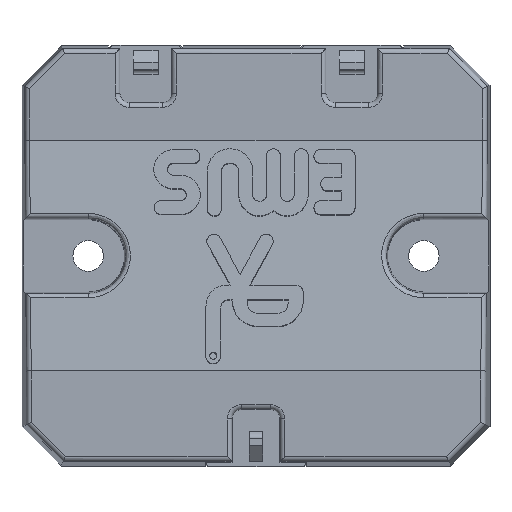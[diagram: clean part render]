
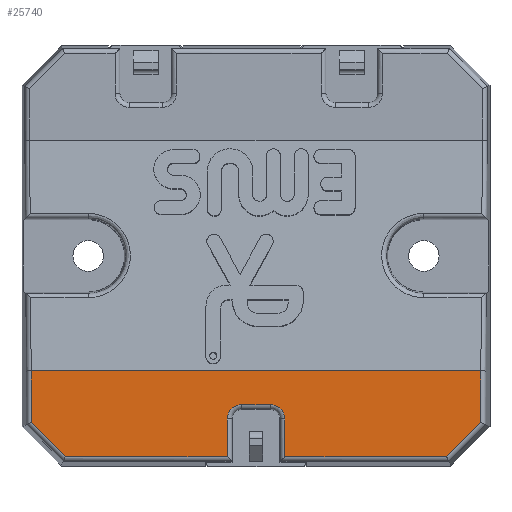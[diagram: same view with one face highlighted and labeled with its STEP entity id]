
A CAD part, top view. The second image highlights one B-rep face of the part: STEP entity #25740.
In plain terms, the highlighted planar face has unit normal (0, 0, 1).
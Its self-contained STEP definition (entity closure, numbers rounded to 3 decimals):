
#674=CIRCLE('',#27300,1.5);
#678=CIRCLE('',#27307,1.5);
#1845=FACE_OUTER_BOUND('',#3252,.T.);
#3252=EDGE_LOOP('',(#21586,#21587,#21588,#21589,#21590,#21591,#21592,#21593,
#21594,#21595,#21596,#21597,#21598,#21599));
#6058=LINE('',#42541,#9258);
#6062=LINE('',#42562,#9262);
#6064=LINE('',#42574,#9264);
#6067=LINE('',#42579,#9267);
#6072=LINE('',#42589,#9272);
#6073=LINE('',#42591,#9273);
#6074=LINE('',#42593,#9274);
#6075=LINE('',#42594,#9275);
#6076=LINE('',#42596,#9276);
#6077=LINE('',#42598,#9277);
#6078=LINE('',#42600,#9278);
#6079=LINE('',#42601,#9279);
#9258=VECTOR('',#32484,10.);
#9262=VECTOR('',#32506,10.);
#9264=VECTOR('',#32520,10.);
#9267=VECTOR('',#32525,10.);
#9272=VECTOR('',#32538,10.);
#9273=VECTOR('',#32539,10.);
#9274=VECTOR('',#32540,10.);
#9275=VECTOR('',#32541,10.);
#9276=VECTOR('',#32542,10.);
#9277=VECTOR('',#32543,10.);
#9278=VECTOR('',#32544,10.);
#9279=VECTOR('',#32545,10.);
#11960=VERTEX_POINT('',#42538);
#11961=VERTEX_POINT('',#42540);
#11967=VERTEX_POINT('',#42554);
#11968=VERTEX_POINT('',#42556);
#11969=VERTEX_POINT('',#42560);
#11972=VERTEX_POINT('',#42568);
#11973=VERTEX_POINT('',#42570);
#11974=VERTEX_POINT('',#42578);
#11975=VERTEX_POINT('',#42588);
#11976=VERTEX_POINT('',#42590);
#11977=VERTEX_POINT('',#42592);
#11978=VERTEX_POINT('',#42595);
#11979=VERTEX_POINT('',#42597);
#11980=VERTEX_POINT('',#42599);
#15302=EDGE_CURVE('',#11961,#11960,#6058,.T.);
#15309=EDGE_CURVE('',#11967,#11968,#674,.T.);
#15312=EDGE_CURVE('',#11969,#11967,#6062,.T.);
#15316=EDGE_CURVE('',#11972,#11973,#678,.T.);
#15318=EDGE_CURVE('',#11968,#11972,#6064,.T.);
#15321=EDGE_CURVE('',#11973,#11974,#6067,.T.);
#15327=EDGE_CURVE('',#11975,#11969,#6072,.T.);
#15328=EDGE_CURVE('',#11976,#11975,#6073,.T.);
#15329=EDGE_CURVE('',#11977,#11976,#6074,.T.);
#15330=EDGE_CURVE('',#11977,#11961,#6075,.T.);
#15331=EDGE_CURVE('',#11960,#11978,#6076,.T.);
#15332=EDGE_CURVE('',#11979,#11978,#6077,.T.);
#15333=EDGE_CURVE('',#11980,#11979,#6078,.T.);
#15334=EDGE_CURVE('',#11974,#11980,#6079,.T.);
#21586=ORIENTED_EDGE('',*,*,#15321,.F.);
#21587=ORIENTED_EDGE('',*,*,#15316,.F.);
#21588=ORIENTED_EDGE('',*,*,#15318,.F.);
#21589=ORIENTED_EDGE('',*,*,#15309,.F.);
#21590=ORIENTED_EDGE('',*,*,#15312,.F.);
#21591=ORIENTED_EDGE('',*,*,#15327,.F.);
#21592=ORIENTED_EDGE('',*,*,#15328,.F.);
#21593=ORIENTED_EDGE('',*,*,#15329,.F.);
#21594=ORIENTED_EDGE('',*,*,#15330,.T.);
#21595=ORIENTED_EDGE('',*,*,#15302,.T.);
#21596=ORIENTED_EDGE('',*,*,#15331,.T.);
#21597=ORIENTED_EDGE('',*,*,#15332,.F.);
#21598=ORIENTED_EDGE('',*,*,#15333,.F.);
#21599=ORIENTED_EDGE('',*,*,#15334,.F.);
#24451=PLANE('',#27314);
#25740=ADVANCED_FACE('',(#1845),#24451,.F.);
#27300=AXIS2_PLACEMENT_3D('',#42557,#32498,#32499);
#27307=AXIS2_PLACEMENT_3D('',#42571,#32514,#32515);
#27314=AXIS2_PLACEMENT_3D('',#42587,#32536,#32537);
#32484=DIRECTION('',(-1.,0.,0.));
#32498=DIRECTION('center_axis',(0.,0.,1.));
#32499=DIRECTION('ref_axis',(0.707,0.707,0.));
#32506=DIRECTION('',(0.,1.,0.));
#32514=DIRECTION('center_axis',(0.,0.,1.));
#32515=DIRECTION('ref_axis',(-0.707,0.707,0.));
#32520=DIRECTION('',(-1.,0.,0.));
#32525=DIRECTION('',(0.,-1.,0.));
#32536=DIRECTION('center_axis',(0.,0.,-1.));
#32537=DIRECTION('ref_axis',(1.,0.,0.));
#32538=DIRECTION('',(-1.,0.,0.));
#32539=DIRECTION('',(-0.707,-0.707,0.));
#32540=DIRECTION('',(0.,-1.,0.));
#32541=DIRECTION('',(-1.,0.,0.));
#32542=DIRECTION('',(-1.,0.,0.));
#32543=DIRECTION('',(0.,1.,0.));
#32544=DIRECTION('',(-0.707,0.707,0.));
#32545=DIRECTION('',(-1.,0.,0.));
#42538=CARTESIAN_POINT('',(-0.955,10.,9.185));
#42540=CARTESIAN_POINT('',(45.955,10.,9.185));
#42541=CARTESIAN_POINT('',(10.,10.,9.185));
#42554=CARTESIAN_POINT('',(25.5,4.981,9.185));
#42556=CARTESIAN_POINT('',(24.,6.481,9.185));
#42557=CARTESIAN_POINT('Origin',(24.,4.981,9.185));
#42560=CARTESIAN_POINT('',(25.5,1.044,9.185));
#42562=CARTESIAN_POINT('',(25.5,13.74,9.185));
#42568=CARTESIAN_POINT('',(21.,6.481,9.185));
#42570=CARTESIAN_POINT('',(19.5,4.981,9.185));
#42571=CARTESIAN_POINT('Origin',(21.,4.981,9.185));
#42574=CARTESIAN_POINT('',(21.25,6.481,9.185));
#42578=CARTESIAN_POINT('',(19.5,1.044,9.185));
#42579=CARTESIAN_POINT('',(19.5,10.08,9.185));
#42587=CARTESIAN_POINT('Origin',(22.5,22.,9.185));
#42588=CARTESIAN_POINT('',(42.396,1.044,9.185));
#42589=CARTESIAN_POINT('',(32.664,1.044,9.185));
#42590=CARTESIAN_POINT('',(45.956,4.604,9.185));
#42591=CARTESIAN_POINT('',(44.594,3.242,9.185));
#42592=CARTESIAN_POINT('',(45.956,10.,9.185));
#42593=CARTESIAN_POINT('',(45.956,30.914,9.185));
#42594=CARTESIAN_POINT('',(10.,10.,9.185));
#42595=CARTESIAN_POINT('',(-0.956,10.,9.185));
#42596=CARTESIAN_POINT('',(10.,10.,9.185));
#42597=CARTESIAN_POINT('',(-0.956,4.604,9.185));
#42598=CARTESIAN_POINT('',(-0.956,13.086,9.185));
#42599=CARTESIAN_POINT('',(2.604,1.044,9.185));
#42600=CARTESIAN_POINT('',(2.492,1.156,9.185));
#42601=CARTESIAN_POINT('',(32.664,1.044,9.185));
